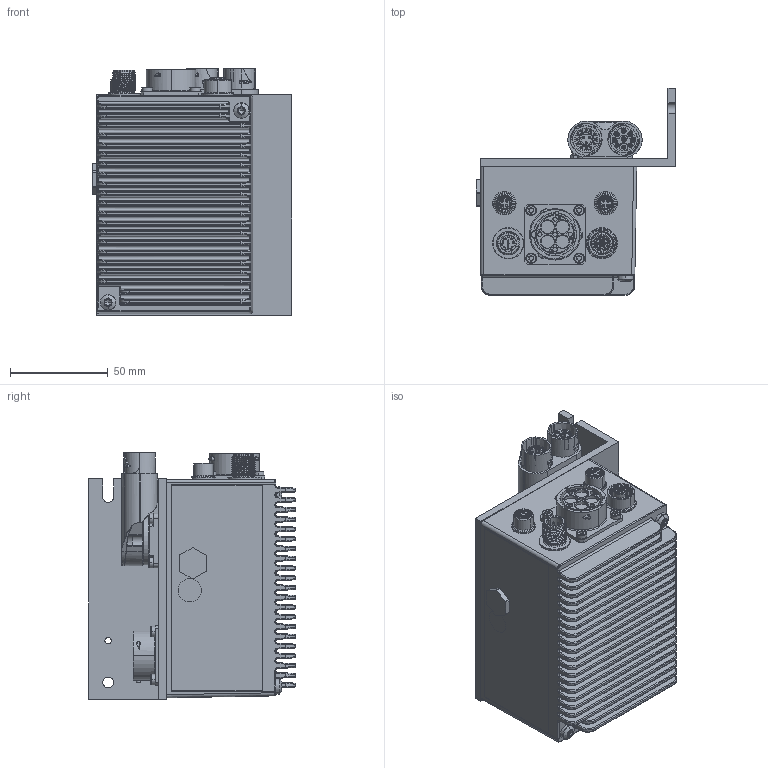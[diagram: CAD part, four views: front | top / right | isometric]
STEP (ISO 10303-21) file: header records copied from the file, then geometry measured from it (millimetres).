
FILE_DESCRIPTION((''),'2;1');
FILE_NAME('BL48_ZUSAMMENBAU_D_SW0001','2020-12-10T',('RUL52'),(''),'CREO PARAMETRIC BY PTC INC, 2016260','CREO PARAMETRIC BY PTC INC, 2016260','');
FILE_SCHEMA(('CONFIG_CONTROL_DESIGN'));
Products named in the file (1): BL48_ZUSAMMENBAU_D_SW0001
Bounding box: 102.3 x 106 x 126.31 mm (x, y, z)
Surface area: 116237 mm2 (no closed solid volume)
Topology: 0 solids, 62 shells, 2171 faces, 7241 edges, 5133 vertices
Faces by surface type: cylinder 918, plane 480, bspline 372, torus 196, cone 188, sphere 9, extrusion 8
Entity records: 107010 total; most frequent: CARTESIAN_POINT 46087, ORIENTED_EDGE 12515, DIRECTION 12259, EDGE_CURVE 7215, VERTEX_POINT 5132, AXIS2_PLACEMENT_3D 4684, CIRCLE 2893, VECTOR 2891
